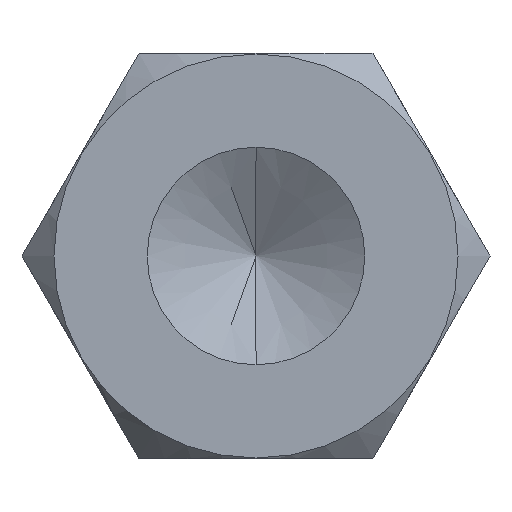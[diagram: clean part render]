
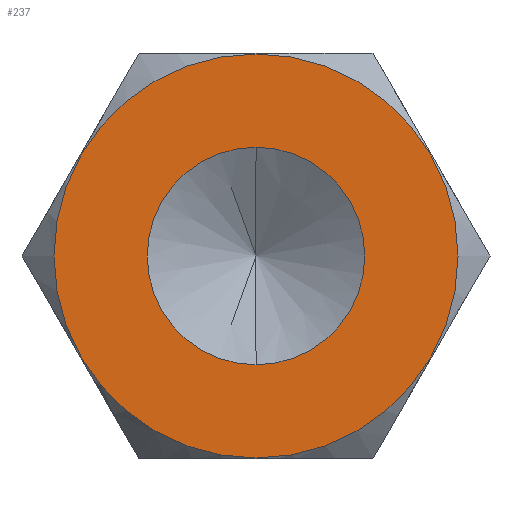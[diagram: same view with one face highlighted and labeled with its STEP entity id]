
A CAD part, front view. The second image highlights one B-rep face of the part: STEP entity #237.
In plain terms, the highlighted planar face has unit normal (0, -1, 0).
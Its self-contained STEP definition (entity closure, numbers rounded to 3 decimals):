
#16 = DIRECTION ( 'NONE',  ( 0., -1., 0. ) ) ;
#31 = ORIENTED_EDGE ( 'NONE', *, *, #380, .F. ) ;
#42 = DIRECTION ( 'NONE',  ( 0., 0., -1. ) ) ;
#44 = ORIENTED_EDGE ( 'NONE', *, *, #646, .F. ) ;
#55 = EDGE_LOOP ( 'NONE', ( #44, #31 ) ) ;
#63 = CARTESIAN_POINT ( 'NONE',  ( 0., 0., 9.47 ) ) ;
#74 = CARTESIAN_POINT ( 'NONE',  ( 0., 0., 0. ) ) ;
#77 = CIRCLE ( 'NONE', #800, 5.1 ) ;
#85 = DIRECTION ( 'NONE',  ( 0., 0., -1. ) ) ;
#86 = DIRECTION ( 'NONE',  ( 0., 1., 0. ) ) ;
#87 = EDGE_LOOP ( 'NONE', ( #178, #756 ) ) ;
#88 = DIRECTION ( 'NONE',  ( 0., -1., 0. ) ) ;
#93 = DIRECTION ( 'NONE',  ( 0., 0., 1. ) ) ;
#178 = ORIENTED_EDGE ( 'NONE', *, *, #576, .T. ) ;
#203 = AXIS2_PLACEMENT_3D ( 'NONE', #610, #86, #93 ) ;
#237 = ADVANCED_FACE ( 'NONE', ( #681, #311 ), #489, .F. ) ;
#294 = CARTESIAN_POINT ( 'NONE',  ( 0., 0., 0. ) ) ;
#300 = CARTESIAN_POINT ( 'NONE',  ( 0., 0., -9.47 ) ) ;
#310 = AXIS2_PLACEMENT_3D ( 'NONE', #74, #16, #475 ) ;
#311 = FACE_OUTER_BOUND ( 'NONE', #87, .T. ) ;
#346 = CIRCLE ( 'NONE', #814, 5.1 ) ;
#380 = EDGE_CURVE ( 'NONE', #686, #491, #346, .T. ) ;
#435 = CARTESIAN_POINT ( 'NONE',  ( 0., 0., 0. ) ) ;
#450 = VERTEX_POINT ( 'NONE', #63 ) ;
#452 = CARTESIAN_POINT ( 'NONE',  ( 0., 0., 5.1 ) ) ;
#475 = DIRECTION ( 'NONE',  ( 0., 0., -1. ) ) ;
#482 = AXIS2_PLACEMENT_3D ( 'NONE', #488, #735, #85 ) ;
#488 = CARTESIAN_POINT ( 'NONE',  ( 0., 0., 0. ) ) ;
#489 = PLANE ( 'NONE',  #203 ) ;
#491 = VERTEX_POINT ( 'NONE', #780 ) ;
#505 = EDGE_CURVE ( 'NONE', #548, #450, #628, .T. ) ;
#548 = VERTEX_POINT ( 'NONE', #300 ) ;
#567 = DIRECTION ( 'NONE',  ( 0., -1., 0. ) ) ;
#576 = EDGE_CURVE ( 'NONE', #450, #548, #842, .T. ) ;
#609 = DIRECTION ( 'NONE',  ( 0., 0., -1. ) ) ;
#610 = CARTESIAN_POINT ( 'NONE',  ( 0., 0., 0. ) ) ;
#628 = CIRCLE ( 'NONE', #310, 9.47 ) ;
#646 = EDGE_CURVE ( 'NONE', #491, #686, #77, .T. ) ;
#681 = FACE_BOUND ( 'NONE', #55, .T. ) ;
#686 = VERTEX_POINT ( 'NONE', #452 ) ;
#735 = DIRECTION ( 'NONE',  ( 0., -1., 0. ) ) ;
#756 = ORIENTED_EDGE ( 'NONE', *, *, #505, .T. ) ;
#780 = CARTESIAN_POINT ( 'NONE',  ( 0., 0., -5.1 ) ) ;
#800 = AXIS2_PLACEMENT_3D ( 'NONE', #294, #88, #609 ) ;
#814 = AXIS2_PLACEMENT_3D ( 'NONE', #435, #567, #42 ) ;
#842 = CIRCLE ( 'NONE', #482, 9.47 ) ;
